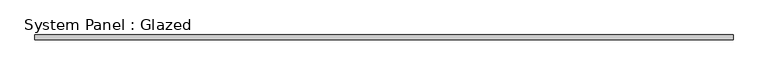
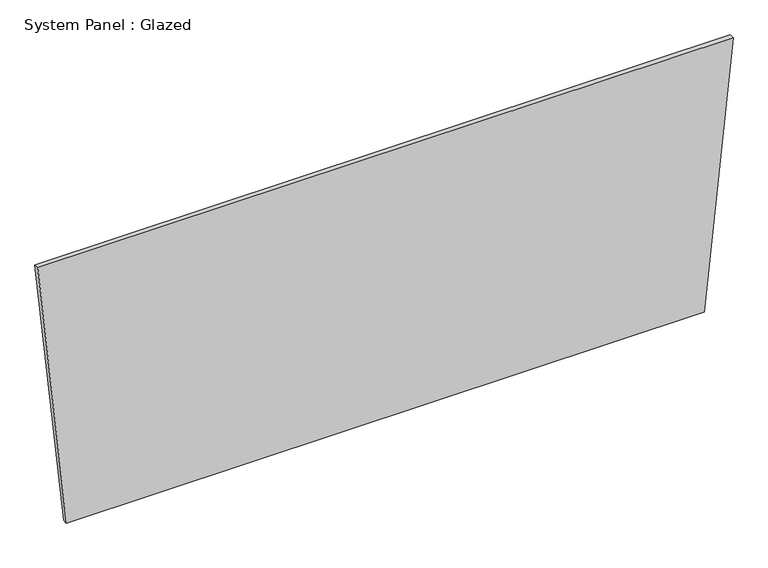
"""IFC4 building model written with IfcOpenShell, lengths in millimetres: plate geometry, System Panel : Glazed."""

import ifcopenshell
import ifcopenshell.guid

model = None  # the IFC model being written
_history = None  # IfcOwnerHistory: only IFC2X3 demands one
_inside = {}  # id of a spatial element -> (the spatial element, [elements in it])
_under = {}  # id of a project, library or spatial element -> (it, [spatial elements below it])
_declared = {}  # id of a project -> (the project, [libraries it declares])
_typed = {}  # id of a type object -> (the type object, [elements of that type])
_made_of = {}  # id of a material, layer set ... -> (it, [elements and type objects made of it])


def new_model(schema):
    """Start an empty IFC model of exactly this schema.

    Asked for "IFC4X3", IfcOpenShell would pick the latest addendum, in which some entities
    have other attributes; the version numbers below select the first issue.
    IFC2X3 requires an IfcOwnerHistory on every rooted entity: one is made here for all.
    """
    global model, _history
    if schema == "IFC4X3":
        model = ifcopenshell.file(schema_version=(4, 3, 0, 0))
    else:
        model = ifcopenshell.file(schema=schema)
    _inside.clear()
    _under.clear()
    _declared.clear()
    _typed.clear()
    _made_of.clear()
    _history = None
    if model.schema == "IFC2X3":
        org = make("IfcOrganization", Name="unknown")
        user = make(
            "IfcPersonAndOrganization",
            ThePerson=make("IfcPerson", FamilyName="unknown"),
            TheOrganization=org,
        )
        app = make(
            "IfcApplication",
            ApplicationDeveloper=org,
            Version="unknown",
            ApplicationFullName="unknown",
            ApplicationIdentifier="unknown",
        )
        _history = make(
            "IfcOwnerHistory",
            OwningUser=user,
            OwningApplication=app,
            ChangeAction="ADDED",
            CreationDate=0,
        )
    return model


def make(cls, **values):
    """One entity of the class cls with the attributes given. An attribute that is None is left unset."""
    return model.create_entity(
        cls, **{name: value for name, value in values.items() if value is not None}
    )


def rooted(cls, **values):
    """An entity with a GlobalId (a new one), such as an element, a storey or a relation."""
    return make(cls, GlobalId=ifcopenshell.guid.new(), OwnerHistory=_history, **values)


def si_unit(unit_type, name, prefix=None):
    """IfcSIUnit, for example si_unit("LENGTHUNIT", "METRE", prefix="MILLI")."""
    return make("IfcSIUnit", UnitType=unit_type, Prefix=prefix, Name=name)


def assignment(units):
    """IfcUnitAssignment: the units of a project."""
    return None if units is None else make("IfcUnitAssignment", Units=units)


def point(xyz):
    """IfcCartesianPoint."""
    return None if xyz is None else make("IfcCartesianPoint", Coordinates=xyz)


def direction(xyz):
    """IfcDirection."""
    return None if xyz is None else make("IfcDirection", DirectionRatios=xyz)


def frame(location, z_axis=None, x_axis=None):
    """IfcAxis2Placement3D, a coordinate frame: its origin and axes. An axis left out is left unset."""
    return make(
        "IfcAxis2Placement3D",
        Location=point(location),
        Axis=direction(z_axis),
        RefDirection=direction(x_axis),
    )


def origin():
    """The frame at (0, 0, 0) with its axes left unset."""
    return frame((0.0, 0.0, 0.0))


def place(relative_to, where):
    """IfcLocalPlacement: puts the frame where relative to a parent placement (None: the world)."""
    return make(
        "IfcLocalPlacement", PlacementRelTo=relative_to, RelativePlacement=where
    )


def context(
    kind, dimensions, precision=None, world=None, true_north=None, identifier=None
):
    """IfcGeometricRepresentationContext, for example the 3D "Model" context."""
    return make(
        "IfcGeometricRepresentationContext",
        ContextIdentifier=identifier,
        ContextType=kind,
        CoordinateSpaceDimension=dimensions,
        Precision=precision,
        WorldCoordinateSystem=world,
        TrueNorth=true_north,
    )


def project(units=None, contexts=None):
    """IfcProject with its units and contexts."""
    return rooted(
        "IfcProject",
        Name="project",
        RepresentationContexts=contexts,
        UnitsInContext=assignment(units),
    )


def spatial(cls, under=None, at=None, **own):
    """A site, building, storey or space (cls), placed at a placement, below another one or the project."""
    s = rooted(cls, ObjectPlacement=at, **own)
    if under is not None:
        _under.setdefault(under.id(), (under, []))[1].append(s)
    return s


def polyline(points):
    """IfcPolyline through the points."""
    return make("IfcPolyline", Points=[point(p) for p in points])


def outline(outer, holes=None, kind="AREA"):
    """IfcArbitraryClosedProfileDef: a profile drawn as a closed curve; with holes, ...WithVoids."""
    if holes is None:
        return make("IfcArbitraryClosedProfileDef", ProfileType=kind, OuterCurve=outer)
    return make(
        "IfcArbitraryProfileDefWithVoids",
        ProfileType=kind,
        OuterCurve=outer,
        InnerCurves=holes,
    )


def extrude(swept, where, along, depth):
    """IfcExtrudedAreaSolid: the profile swept, set in the frame where, extruded along a direction by depth."""
    return make(
        "IfcExtrudedAreaSolid",
        SweptArea=swept,
        Position=where,
        ExtrudedDirection=direction(along),
        Depth=depth,
    )


def shape(context_of_items, identifier, shape_type, items):
    """IfcShapeRepresentation: the items that make up one representation, for example the "Body"."""
    return make(
        "IfcShapeRepresentation",
        ContextOfItems=context_of_items,
        RepresentationIdentifier=identifier,
        RepresentationType=shape_type,
        Items=items,
    )


def source(mapping_origin, context_of_items, identifier, shape_type, items):
    """IfcRepresentationMap: a shape defined once, which mapped items show again and again."""
    return make(
        "IfcRepresentationMap",
        MappingOrigin=mapping_origin,
        MappedRepresentation=shape(context_of_items, identifier, shape_type, items),
    )


def transform(
    local_origin,
    x_axis=None,
    y_axis=None,
    z_axis=None,
    scale=None,
    scale2=None,
    scale3=None,
    uniform=True,
):
    """IfcCartesianTransformationOperator3D, or its non-uniform kind. x_axis, y_axis, z_axis: its Axis1, 2, 3."""
    if uniform:
        return make(
            "IfcCartesianTransformationOperator3D",
            Axis1=direction(x_axis),
            Axis2=direction(y_axis),
            LocalOrigin=point(local_origin),
            Scale=scale,
            Axis3=direction(z_axis),
        )
    return make(
        "IfcCartesianTransformationOperator3DnonUniform",
        Axis1=direction(x_axis),
        Axis2=direction(y_axis),
        LocalOrigin=point(local_origin),
        Scale=scale,
        Axis3=direction(z_axis),
        Scale2=scale2,
        Scale3=scale3,
    )


def mapped(mapping_source, mapping_target):
    """IfcMappedItem: shows the shape of a source again, moved by a transform."""
    return make(
        "IfcMappedItem", MappingSource=mapping_source, MappingTarget=mapping_target
    )


def made_of(thing, what):
    """Note that an element or type object is made of a material, layer set ...; save() writes the relation."""
    if what is not None:
        _made_of.setdefault(what.id(), (what, []))[1].append(thing)
    return thing


def element(
    cls,
    number,
    at=None,
    inside=None,
    cuts=None,
    type_object=None,
    material=None,
    context=None,
    identifier="Body",
    shape_type=None,
    held_by="IfcProductDefinitionShape",
    body=None,
    shapes=None,
    **own,
):
    """One element of the class cls, such as IfcWall. Its Tag is "e" and its number.

    at: its placement. inside: the storey or other place that contains it. cuts: it is an
    opening in that element (IfcRelVoidsElement). A single representation is given by context,
    identifier, shape_type and body (its items); several are given by shapes. held_by: the class
    of the entity that holds the representations. save() writes the other relations.
    """
    e = rooted(cls, Tag="e%d" % number, ObjectPlacement=at, **own)
    if body is not None:
        shapes = [shape(context, identifier, shape_type, body)]
    if shapes is not None:
        e.Representation = make(held_by, Representations=shapes)
    if inside is not None:
        _inside.setdefault(inside.id(), (inside, []))[1].append(e)
    if cuts is not None:
        rooted(
            "IfcRelVoidsElement", RelatingBuildingElement=cuts, RelatedOpeningElement=e
        )
    if type_object is not None:
        _typed.setdefault(type_object.id(), (type_object, []))[1].append(e)
    return made_of(e, material)


def aggregate(whole, parts):
    """IfcRelAggregates: a whole, such as a stair, and the parts it consists of."""
    return rooted("IfcRelAggregates", RelatingObject=whole, RelatedObjects=parts)


def save(model, path):
    """Write the relations noted so far, then the file.

    IfcRelAggregates (storeys below a building ...), IfcRelContainedInSpatialStructure (elements
    in a storey), IfcRelDefinesByType, IfcRelAssociatesMaterial and IfcRelDeclares: one each for
    every whole, place, type object, material and project.
    """
    for whole, parts in _under.values():
        aggregate(whole, parts)
    for where, things in _inside.values():
        rooted(
            "IfcRelContainedInSpatialStructure",
            RelatedElements=things,
            RelatingStructure=where,
        )
    for kind, things in _typed.values():
        rooted("IfcRelDefinesByType", RelatedObjects=things, RelatingType=kind)
    for what, things in _made_of.values():
        rooted("IfcRelAssociatesMaterial", RelatedObjects=things, RelatingMaterial=what)
    for by, libraries in _declared.values():
        rooted("IfcRelDeclares", RelatingContext=by, RelatedDefinitions=libraries)
    model.write(path)


def system_panel_glazed_e82b84bd(model_context):
    return source(origin(), model_context, "Body", "SweptSolid", [
        extrude(outline(polyline([(0.0, -1652.2758457), (0.0, 1652.2758457), (1452.5741974, 1801.000027), (1452.5741974, -1801.000027), (0.0, -1652.2758457)])), frame((0.0, 19.05, 0.0), z_axis=(0.0, 1.0, 0.0), x_axis=(0.0, 0.0, 1.0)), (0.0, 0.0, 1.0), 25.4),
    ])


if __name__ == "__main__":
    model = new_model("IFC4")
    model_context = context("Model", 3, world=origin())
    ifc_project = project(units=[si_unit("LENGTHUNIT", "METRE", prefix="MILLI")], contexts=[model_context])
    site = spatial("IfcSite", under=ifc_project)
    building = spatial("IfcBuilding", under=site)
    placement = place(None, origin())
    system_panel_glazed_shape = system_panel_glazed_e82b84bd(model_context)
    element("IfcPlate", 1, ObjectType="System Panel : Glazed", at=placement, inside=building, context=model_context, shape_type="MappedRepresentation", body=[
        mapped(system_panel_glazed_shape, transform((0.0, 0.0, 0.0), x_axis=(1.0, 0.0, 0.0), y_axis=(0.0, 1.0, 0.0), z_axis=(0.0, 0.0, 1.0))),
    ])
    save(model, "model.ifc")
